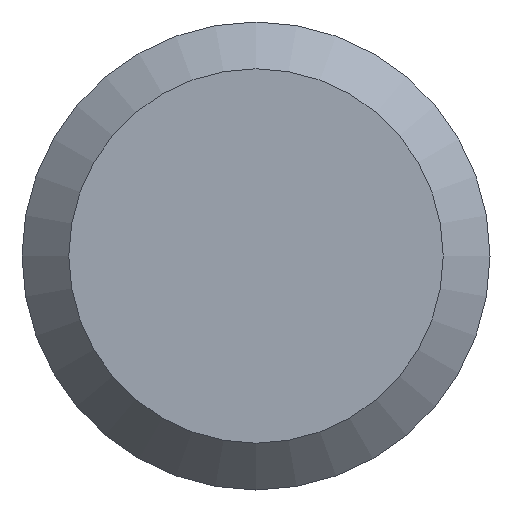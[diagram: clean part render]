
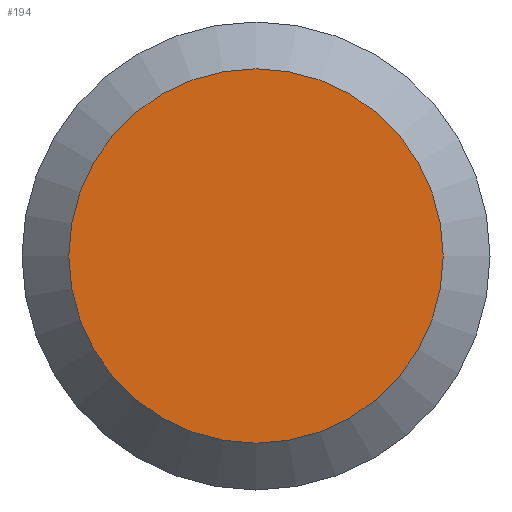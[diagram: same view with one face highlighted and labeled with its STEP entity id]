
A CAD part, left-side view. The second image highlights one B-rep face of the part: STEP entity #194.
In plain terms, the highlighted planar face has unit normal (-1, 0, 0).
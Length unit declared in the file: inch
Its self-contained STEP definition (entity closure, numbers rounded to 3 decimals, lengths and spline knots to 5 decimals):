
#15 = DIRECTION ( 'NONE',  ( -1., 0., 0. ) ) ;
#46 = DIRECTION ( 'NONE',  ( 1., 0., 0. ) ) ;
#56 = CARTESIAN_POINT ( 'NONE',  ( 0., 0.202, 0. ) ) ;
#67 = DIRECTION ( 'NONE',  ( 0., 0., -1. ) ) ;
#104 = ORIENTED_EDGE ( 'NONE', *, *, #181, .T. ) ;
#112 = FACE_OUTER_BOUND ( 'NONE', #189, .T. ) ;
#113 = CIRCLE ( 'NONE', #149, 0.1616 ) ;
#127 = CARTESIAN_POINT ( 'NONE',  ( 0., 0., 0. ) ) ;
#135 = DIRECTION ( 'NONE',  ( 0., 0., -1. ) ) ;
#149 = AXIS2_PLACEMENT_3D ( 'NONE', #127, #15, #135 ) ;
#162 = VERTEX_POINT ( 'NONE', #224 ) ;
#181 = EDGE_CURVE ( 'NONE', #162, #162, #113, .T. ) ;
#189 = EDGE_LOOP ( 'NONE', ( #104 ) ) ;
#194 = ADVANCED_FACE ( 'NONE', ( #112 ), #221, .F. ) ;
#221 = PLANE ( 'NONE',  #240 ) ;
#224 = CARTESIAN_POINT ( 'NONE',  ( 0., 0., -0.1616 ) ) ;
#240 = AXIS2_PLACEMENT_3D ( 'NONE', #56, #46, #67 ) ;
